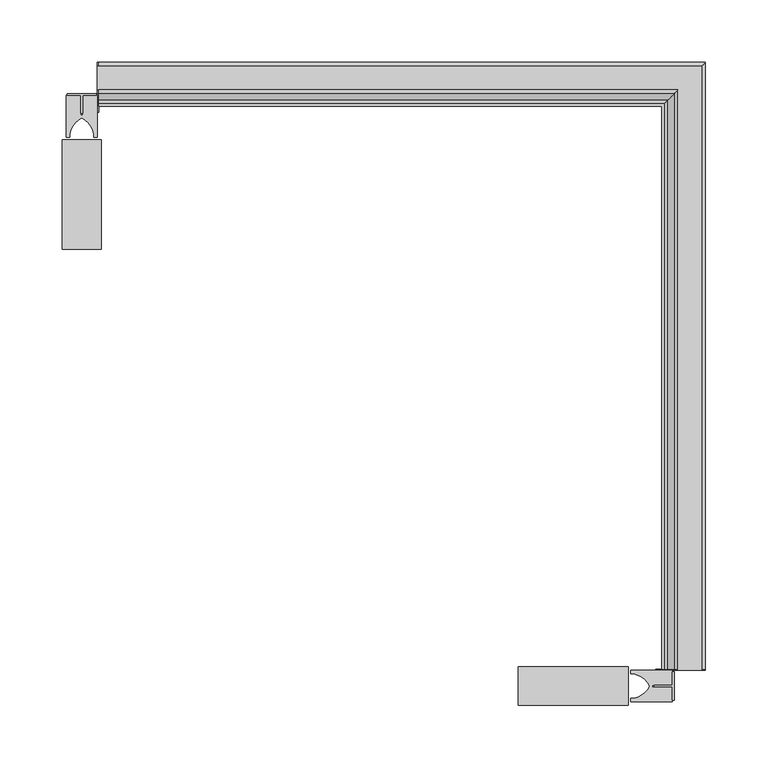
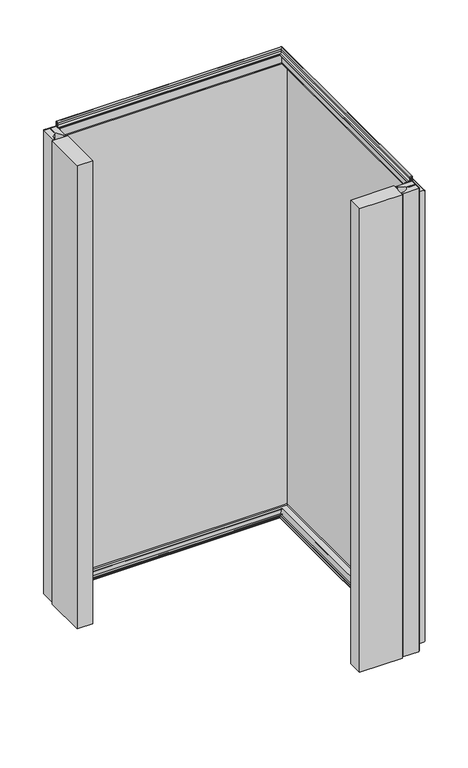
"""IFC4 building model written with IfcOpenShell, lengths in millimetres: plate geometry, Угловой модуль Fronttop : Угловой модуль Fronttop 150/1000."""

from ifc_helpers import new_model, si_unit, point, frame, frame_2d, origin, origin_with_axes, place, context, project, spatial, polyline, circle_curve, ellipse_curve, trimmed, segment, composite_curve, outline, extrude, source, transform, mapped, element, save
from ifc_brep_helpers import plane_surface, cylinder_surface, revolved_surface, advanced_brep


def plate_88117748(model_context):
    return source(origin(), model_context, "Body", "SolidModel", [
        extrude(outline(polyline([(225.0, -338.4948846), (225.0, -361.5051154), (223.5, -361.5051154), (223.5, -350.6502496), (209.0759655, -350.6502496), (209.0759655, -349.35), (223.5, -349.35), (223.5, -338.4948846), (225.0, -338.4948846)])), origin_with_axes(), (0.0, 0.0, 1.0), 1000.0),
        extrude(outline(composite_curve([segment(polyline([(223.5, -337.4998455), (223.5, -349.25), (207.5, -349.25), (207.5, -350.75), (223.5, -350.75), (223.5, -362.5001545), (190.0, -362.5001545), (190.0, -359.75), (192.5, -359.75)]), True, "CONTINUOUS"), segment(trimmed(circle_curve(frame_2d((189.3183984, -341.9661979)), 18.0661619), [point((192.5, -359.75))], [point((205.5, -350.0))], True, "CARTESIAN"), True, "CONTINUOUS"), segment(trimmed(circle_curve(frame_2d((189.3183984, -358.0338021)), 18.0661619), [point((205.5, -350.0))], [point((192.5, -340.25))], True, "CARTESIAN"), True, "CONTINUOUS"), segment(polyline([(192.5, -340.25), (190.0, -340.25), (190.0, -337.4998455), (223.5, -337.4998455)]), True, "CONTINUOUS")], self_intersect=False)), origin_with_axes(), (0.0, 0.0, 1.0), 1000.0),
        extrude(outline(polyline([(100.0, -365.5), (100.0, -334.5), (188.0, -334.5), (188.0, -365.5), (100.0, -365.5)])), origin_with_axes(), (0.0, 0.0, 1.0), 1000.0),
        extrude(outline(polyline([(-261.5051154, 125.0), (-238.4948846, 125.0), (-238.4948846, 123.5), (-249.3497504, 123.5), (-249.3497504, 109.0759655), (-250.65, 109.0759655), (-250.65, 123.5), (-261.5051154, 123.5), (-261.5051154, 125.0)])), origin_with_axes(), (0.0, 0.0, 1.0), 1000.0),
        extrude(outline(composite_curve([segment(polyline([(-262.5001545, 123.5), (-250.75, 123.5), (-250.75, 107.5), (-249.25, 107.5), (-249.25, 123.5), (-237.4998455, 123.5), (-237.4998455, 90.0), (-240.25, 90.0), (-240.25, 92.5)]), True, "CONTINUOUS"), segment(trimmed(circle_curve(frame_2d((-258.0338021, 89.3183984)), 18.0661619), [point((-240.25, 92.5))], [point((-250.0, 105.5))], True, "CARTESIAN"), True, "CONTINUOUS"), segment(trimmed(circle_curve(frame_2d((-241.9661979, 89.3183984)), 18.0661619), [point((-250.0, 105.5))], [point((-259.75, 92.5))], True, "CARTESIAN"), True, "CONTINUOUS"), segment(polyline([(-259.75, 92.5), (-259.75, 90.0), (-262.5001545, 90.0), (-262.5001545, 123.5)]), True, "CONTINUOUS")], self_intersect=False)), origin_with_axes(), (0.0, 0.0, 1.0), 1000.0),
        extrude(outline(polyline([(-234.5, 0.0), (-265.5, 0.0), (-265.5, 88.0), (-234.5, 88.0), (-234.5, 0.0)])), origin_with_axes(), (0.0, 0.0, 1.0), 1000.0),
        advanced_brep(
        [(-236.5, 124.0, 1008.0), (-236.5, 121.0, 1008.0), (-236.5, 121.0, 1004.0), (-236.5, 117.0, 1000.0), (-236.5, 115.0, 1000.0), (-236.5, 115.0, 1001.0), (-236.5, 117.0, 1001.0), (-236.5, 120.0, 1004.0), (-236.5, 120.0, 1008.0), (-236.5, 125.0, 1008.0), (-236.5, 125.0, 1000.0), (-236.5, 124.0, 1000.0), (-236.5, 115.0, 2.0), (215.0, 115.0, 2.0), (215.0, 115.0, 3.0), (-236.5, 115.0, 3.0), (215.0, -336.5, 3.0), (217.0, -336.5, 3.0), (217.0, 117.0, 3.0), (-236.5, 117.0, 3.0), (218.0, 118.0, 4.0), (-236.5, 118.0, 4.0), (218.0, 118.0, 8.0), (-236.5, 118.0, 8.0), (227.0, 127.0, 8.0), (-236.5, 127.0, 8.0), (227.0, 127.0, 0.0), (-236.5, 127.0, 0.0), (229.0, 129.0, -2.0), (-236.5, 129.0, -2.0), (229.0, -336.5, -2.0), (247.0, -336.5, -2.0), (247.0, 147.0, -2.0), (-236.5, 147.0, -2.0), (249.0, 149.0, 0.0), (-236.5, 149.0, 0.0), (249.0, 149.0, 969.0), (-236.5, 149.0, 969.0), (247.0, 147.0, 971.0), (-236.5, 147.0, 971.0), (247.0, -336.5, 971.0), (228.0, -336.5, 971.0), (228.0, 128.0, 971.0), (-236.5, 128.0, 971.0), (224.0, 124.0, 975.0), (-236.5, 124.0, 975.0), (224.0, 124.0, 1008.0), (221.0, 121.0, 1008.0), (221.0, 121.0, 1004.0), (217.0, 117.0, 1000.0), (217.0, -336.5, 1000.0), (215.0, -336.5, 1000.0), (215.0, 115.0, 1000.0), (215.0, 115.0, 1001.0), (215.0, -336.5, 1001.0), (217.0, -336.5, 1001.0), (217.0, 117.0, 1001.0), (220.0, 120.0, 1004.0), (220.0, 120.0, 1008.0), (225.0, 125.0, 1008.0), (225.0, 125.0, 975.0), (-236.5, 125.0, 975.0), (-237.5, 125.0, 975.0), (-237.5, 125.0, 1000.0), (228.0, 128.0, 972.0), (-236.5, 128.0, 972.0), (228.0, -336.5, 972.0), (228.0, -337.5, 972.0), (247.0, -337.5, 972.0), (247.0, -336.5, 972.0), (247.0, 147.0, 972.0), (-236.5, 147.0, 972.0), (-237.5, 147.0, 972.0), (-237.5, 128.0, 972.0), (250.0, 150.0, 969.0), (-236.5, 150.0, 969.0), (250.0, 150.0, 0.0), (-236.5, 150.0, 0.0), (-237.5, 150.0, 0.0), (-237.5, 150.0, 969.0), (247.0, 147.0, -3.0), (-236.5, 147.0, -3.0), (247.0, -336.5, -3.0), (247.0, -337.5, -3.0), (225.0, -337.5, -3.0), (225.0, -336.5, -3.0), (229.0, -336.5, -3.0), (229.0, 129.0, -3.0), (-236.5, 129.0, -3.0), (-236.5, 125.0, -3.0), (-237.5, 125.0, -3.0), (-237.5, 147.0, -3.0), (226.0, 126.0, 0.0), (-236.5, 126.0, 0.0), (226.0, 126.0, 8.0), (-236.5, 126.0, 8.0), (219.0, 119.0, 8.0), (-236.5, 119.0, 8.0), (219.0, 119.0, 4.0), (-236.5, 119.0, 4.0), (217.0, 117.0, 2.0), (-236.5, 117.0, 2.0), (217.0, -336.5, 2.0), (215.0, -336.5, 2.0), (221.0, -336.5, 1004.0), (221.0, -336.5, 1008.0), (224.0, -336.5, 1008.0), (224.0, -336.5, 1000.0), (225.0, -336.5, 1000.0), (225.0, -336.5, 1008.0), (220.0, -336.5, 1008.0), (220.0, -336.5, 1004.0), (218.0, -336.5, 4.0), (218.0, -336.5, 8.0), (227.0, -336.5, 8.0), (227.0, -336.5, 0.0), (249.0, -336.5, 0.0), (249.0, -336.5, 969.0), (224.0, -336.5, 975.0), (225.0, -337.5, 1000.0), (225.0, -337.5, 975.0), (225.0, -336.5, 975.0), (250.0, -336.5, 969.0), (250.0, -337.5, 969.0), (250.0, -337.5, 0.0), (250.0, -336.5, 0.0), (226.0, -336.5, 0.0), (226.0, -336.5, 8.0), (219.0, -336.5, 8.0), (219.0, -336.5, 4.0), (-236.5, 110.0, 1000.0), (-236.5, 110.0, 0.0), (-236.5, 125.0, 0.0), (-237.5, 125.0, 0.0), (-237.5, 110.0, 0.0), (-237.5, 110.0, 1000.0), (210.0, -336.5, 0.0), (210.0, -336.5, 1000.0), (225.0, -336.5, 0.0), (210.0, -337.5, 0.0), (225.0, -337.5, 0.0), (210.0, -337.5, 1000.0)],
        [
            (0, 1, circle_curve(frame((-236.5, 122.5, 1008.0), z_axis=(1.0, 0.0, 0.0), x_axis=(0.0, -1.0, 0.0)), 1.5)),
            (1, 2),
            (2, 3, circle_curve(frame((-236.5, 117.0, 1004.0), z_axis=(-1.0, 0.0, 0.0), x_axis=(0.0, -1.0, 0.0)), 4.0)),
            (3, 4),
            (4, 5),
            (5, 6),
            (6, 7, circle_curve(frame((-236.5, 117.0, 1004.0), z_axis=(1.0, 0.0, 0.0), x_axis=(0.0, -1.0, 0.0)), 3.0)),
            (7, 8),
            (8, 9, circle_curve(frame((-236.5, 122.5, 1008.0), z_axis=(-1.0, 0.0, 0.0), x_axis=(0.0, -1.0, 0.0)), 2.5)),
            (9, 10),
            (10, 11),
            (11, 0),
            (12, 13),
            (13, 14),
            (14, 15),
            (15, 12),
            (14, 16),
            (16, 17),
            (17, 18),
            (18, 19),
            (19, 15),
            (18, 20, ellipse_curve(frame((217.0, 117.0, 4.0), z_axis=(0.7071067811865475, -0.7071067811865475, 0.0), x_axis=(0.7071067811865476, 0.7071067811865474, 0.0)), 1.4142136, 1.0)),
            (20, 21),
            (21, 19, circle_curve(frame((-236.5, 117.0, 4.0), z_axis=(-1.0, 0.0, 0.0), x_axis=(0.0, -1.0, 0.0)), 1.0)),
            (20, 22),
            (22, 23),
            (23, 21),
            (22, 24, ellipse_curve(frame((222.5, 122.5, 8.0), z_axis=(-0.7071067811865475, 0.7071067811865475, 0.0), x_axis=(-0.7071067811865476, -0.7071067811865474, 0.0)), 6.363961, 4.5)),
            (24, 25),
            (25, 23, circle_curve(frame((-236.5, 122.5, 8.0), z_axis=(1.0, 0.0, 0.0), x_axis=(0.0, -1.0, 0.0)), 4.5)),
            (24, 26),
            (26, 27),
            (27, 25),
            (26, 28, ellipse_curve(frame((229.0, 129.0, 0.0), z_axis=(0.7071067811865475, -0.7071067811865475, 0.0), x_axis=(0.7071067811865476, 0.7071067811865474, 0.0)), 2.8284271, 2.0)),
            (28, 29),
            (29, 27, circle_curve(frame((-236.5, 129.0, 0.0), z_axis=(-1.0, 0.0, 0.0), x_axis=(0.0, -1.0, 0.0)), 2.0)),
            (28, 30),
            (30, 31),
            (31, 32),
            (32, 33),
            (33, 29),
            (32, 34, ellipse_curve(frame((247.0, 147.0, 0.0), z_axis=(0.7071067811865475, -0.7071067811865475, 0.0), x_axis=(0.7071067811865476, 0.7071067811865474, 0.0)), 2.8284271, 2.0)),
            (34, 35),
            (35, 33, circle_curve(frame((-236.5, 147.0, 0.0), z_axis=(-1.0, 0.0, 0.0), x_axis=(0.0, -1.0, 0.0)), 2.0)),
            (34, 36),
            (36, 37),
            (37, 35),
            (36, 38, ellipse_curve(frame((247.0, 147.0, 969.0), z_axis=(0.7071067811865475, -0.7071067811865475, 0.0), x_axis=(0.7071067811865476, 0.7071067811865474, 0.0)), 2.8284271, 2.0)),
            (38, 39),
            (39, 37, circle_curve(frame((-236.5, 147.0, 969.0), z_axis=(-1.0, 0.0, 0.0), x_axis=(0.0, -1.0, 0.0)), 2.0)),
            (38, 40),
            (40, 41),
            (41, 42),
            (42, 43),
            (43, 39),
            (42, 44, ellipse_curve(frame((228.0, 128.0, 975.0), z_axis=(-0.7071067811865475, 0.7071067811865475, 0.0), x_axis=(-0.7071067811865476, -0.7071067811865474, 0.0)), 5.6568542, 4.0)),
            (44, 45),
            (45, 43, circle_curve(frame((-236.5, 128.0, 975.0), z_axis=(1.0, 0.0, 0.0), x_axis=(0.0, -1.0, 0.0)), 4.0)),
            (44, 46),
            (46, 0),
            (11, 45),
            (46, 47, ellipse_curve(frame((222.5, 122.5, 1008.0), z_axis=(0.7071067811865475, -0.7071067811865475, 0.0), x_axis=(0.7071067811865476, 0.7071067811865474, 0.0)), 2.1213203, 1.5)),
            (47, 1),
            (47, 48),
            (48, 2),
            (48, 49, ellipse_curve(frame((217.0, 117.0, 1004.0), z_axis=(-0.7071067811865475, 0.7071067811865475, 0.0), x_axis=(-0.7071067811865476, -0.7071067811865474, 0.0)), 5.6568542, 4.0)),
            (49, 3),
            (49, 50),
            (50, 51),
            (51, 52),
            (52, 4),
            (4, 3),
            (52, 53),
            (53, 5),
            (53, 54),
            (54, 55),
            (55, 56),
            (56, 6),
            (56, 57, ellipse_curve(frame((217.0, 117.0, 1004.0), z_axis=(0.7071067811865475, -0.7071067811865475, 0.0), x_axis=(0.7071067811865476, 0.7071067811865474, 0.0)), 4.2426407, 3.0)),
            (57, 7),
            (57, 58),
            (58, 8),
            (58, 59, ellipse_curve(frame((222.5, 122.5, 1008.0), z_axis=(-0.7071067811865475, 0.7071067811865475, 0.0), x_axis=(-0.7071067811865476, -0.7071067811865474, 0.0)), 3.5355339, 2.5)),
            (59, 9),
            (59, 60),
            (60, 61),
            (61, 62),
            (62, 63),
            (63, 10),
            (60, 64, ellipse_curve(frame((228.0, 128.0, 975.0), z_axis=(0.7071067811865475, -0.7071067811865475, 0.0), x_axis=(0.7071067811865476, 0.7071067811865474, 0.0)), 4.2426407, 3.0)),
            (64, 65),
            (65, 61, circle_curve(frame((-236.5, 128.0, 975.0), z_axis=(-1.0, 0.0, 0.0), x_axis=(0.0, -1.0, 0.0)), 3.0)),
            (64, 66),
            (66, 67),
            (67, 68),
            (68, 69),
            (69, 70),
            (70, 71),
            (71, 72),
            (72, 73),
            (73, 65),
            (70, 74, ellipse_curve(frame((247.0, 147.0, 969.0), z_axis=(-0.7071067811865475, 0.7071067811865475, 0.0), x_axis=(-0.7071067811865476, -0.7071067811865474, 0.0)), 4.2426407, 3.0)),
            (74, 75),
            (75, 71, circle_curve(frame((-236.5, 147.0, 969.0), z_axis=(1.0, 0.0, 0.0), x_axis=(0.0, -1.0, 0.0)), 3.0)),
            (74, 76),
            (76, 77),
            (77, 78),
            (78, 79),
            (79, 75),
            (76, 80, ellipse_curve(frame((247.0, 147.0, 0.0), z_axis=(-0.7071067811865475, 0.7071067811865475, 0.0), x_axis=(-0.7071067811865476, -0.7071067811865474, 0.0)), 4.2426407, 3.0)),
            (80, 81),
            (81, 77, circle_curve(frame((-236.5, 147.0, 0.0), z_axis=(1.0, 0.0, 0.0), x_axis=(0.0, -1.0, 0.0)), 3.0)),
            (80, 82),
            (82, 83),
            (83, 84),
            (84, 85),
            (85, 86),
            (86, 87),
            (87, 88),
            (88, 89),
            (89, 90),
            (90, 91),
            (91, 81),
            (87, 92, ellipse_curve(frame((229.0, 129.0, 0.0), z_axis=(-0.7071067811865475, 0.7071067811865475, 0.0), x_axis=(-0.7071067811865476, -0.7071067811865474, 0.0)), 4.2426407, 3.0)),
            (92, 93),
            (93, 88, circle_curve(frame((-236.5, 129.0, 0.0), z_axis=(1.0, 0.0, 0.0), x_axis=(0.0, -1.0, 0.0)), 3.0)),
            (92, 94),
            (94, 95),
            (95, 93),
            (94, 96, ellipse_curve(frame((222.5, 122.5, 8.0), z_axis=(0.7071067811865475, -0.7071067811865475, 0.0), x_axis=(0.7071067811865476, 0.7071067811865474, 0.0)), 4.9497475, 3.5)),
            (96, 97),
            (97, 95, circle_curve(frame((-236.5, 122.5, 8.0), z_axis=(-1.0, 0.0, 0.0), x_axis=(0.0, -1.0, 0.0)), 3.5)),
            (96, 98),
            (98, 99),
            (99, 97),
            (98, 100, ellipse_curve(frame((217.0, 117.0, 4.0), z_axis=(-0.7071067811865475, 0.7071067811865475, 0.0), x_axis=(-0.7071067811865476, -0.7071067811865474, 0.0)), 2.8284271, 2.0)),
            (100, 101),
            (101, 99, circle_curve(frame((-236.5, 117.0, 4.0), z_axis=(1.0, 0.0, 0.0), x_axis=(0.0, -1.0, 0.0)), 2.0)),
            (12, 101),
            (100, 102),
            (102, 103),
            (103, 13),
            (54, 51),
            (51, 50),
            (50, 104, circle_curve(frame((217.0, -336.5, 1004.0), z_axis=(0.0, -1.0, 0.0), x_axis=(-1.0, 0.0, 0.0)), 4.0)),
            (104, 105),
            (105, 106, circle_curve(frame((222.5, -336.5, 1008.0), z_axis=(0.0, 1.0, 0.0), x_axis=(-1.0, 0.0, 0.0)), 1.5)),
            (106, 107),
            (107, 108),
            (108, 109),
            (109, 110, circle_curve(frame((222.5, -336.5, 1008.0), z_axis=(0.0, -1.0, 0.0), x_axis=(-1.0, 0.0, 0.0)), 2.5)),
            (110, 111),
            (111, 55, circle_curve(frame((217.0, -336.5, 1004.0), z_axis=(0.0, 1.0, 0.0), x_axis=(-1.0, 0.0, 0.0)), 3.0)),
            (103, 16),
            (17, 112, circle_curve(frame((217.0, -336.5, 4.0), z_axis=(0.0, -1.0, 0.0), x_axis=(-1.0, 0.0, 0.0)), 1.0)),
            (112, 20),
            (112, 113),
            (113, 22),
            (113, 114, circle_curve(frame((222.5, -336.5, 8.0), z_axis=(0.0, 1.0, 0.0), x_axis=(-1.0, 0.0, 0.0)), 4.5)),
            (114, 24),
            (114, 115),
            (115, 26),
            (115, 30, circle_curve(frame((229.0, -336.5, 0.0), z_axis=(0.0, -1.0, 0.0), x_axis=(-1.0, 0.0, 0.0)), 2.0)),
            (31, 116, circle_curve(frame((247.0, -336.5, 0.0), z_axis=(0.0, -1.0, 0.0), x_axis=(-1.0, 0.0, 0.0)), 2.0)),
            (116, 34),
            (116, 117),
            (117, 36),
            (117, 40, circle_curve(frame((247.0, -336.5, 969.0), z_axis=(0.0, -1.0, 0.0), x_axis=(-1.0, 0.0, 0.0)), 2.0)),
            (41, 118, circle_curve(frame((228.0, -336.5, 975.0), z_axis=(0.0, 1.0, 0.0), x_axis=(-1.0, 0.0, 0.0)), 4.0)),
            (118, 44),
            (118, 107),
            (106, 46),
            (105, 47),
            (104, 48),
            (111, 57),
            (110, 58),
            (109, 59),
            (108, 119),
            (119, 120),
            (120, 121),
            (121, 60),
            (121, 66, circle_curve(frame((228.0, -336.5, 975.0), z_axis=(0.0, -1.0, 0.0), x_axis=(-1.0, 0.0, 0.0)), 3.0)),
            (69, 122, circle_curve(frame((247.0, -336.5, 969.0), z_axis=(0.0, 1.0, 0.0), x_axis=(-1.0, 0.0, 0.0)), 3.0)),
            (122, 74),
            (122, 123),
            (123, 124),
            (124, 125),
            (125, 76),
            (125, 82, circle_curve(frame((247.0, -336.5, 0.0), z_axis=(0.0, 1.0, 0.0), x_axis=(-1.0, 0.0, 0.0)), 3.0)),
            (86, 126, circle_curve(frame((229.0, -336.5, 0.0), z_axis=(0.0, 1.0, 0.0), x_axis=(-1.0, 0.0, 0.0)), 3.0)),
            (126, 92),
            (126, 127),
            (127, 94),
            (127, 128, circle_curve(frame((222.5, -336.5, 8.0), z_axis=(0.0, -1.0, 0.0), x_axis=(-1.0, 0.0, 0.0)), 3.5)),
            (128, 96),
            (128, 129),
            (129, 98),
            (129, 102, circle_curve(frame((217.0, -336.5, 4.0), z_axis=(0.0, 1.0, 0.0), x_axis=(-1.0, 0.0, 0.0)), 2.0)),
            (130, 131),
            (131, 132),
            (132, 89),
            (11, 3),
            (4, 130),
            (62, 73, circle_curve(frame((-237.5, 128.0, 975.0), z_axis=(1.0, 0.0, 0.0), x_axis=(0.0, 1.0, 0.0)), 3.0)),
            (72, 79, circle_curve(frame((-237.5, 147.0, 969.0), z_axis=(-1.0, 0.0, 0.0), x_axis=(0.0, 1.0, 0.0)), 3.0)),
            (78, 91, circle_curve(frame((-237.5, 147.0, 0.0), z_axis=(-1.0, 0.0, 0.0), x_axis=(0.0, 1.0, 0.0)), 3.0)),
            (90, 133),
            (133, 134),
            (134, 135),
            (135, 63),
            (135, 130),
            (134, 131),
            (133, 132),
            (136, 137),
            (137, 51),
            (50, 107),
            (85, 138),
            (138, 136),
            (139, 140),
            (140, 84),
            (83, 124, circle_curve(frame((247.0, -337.5, 0.0), z_axis=(0.0, -1.0, 0.0), x_axis=(-1.0, 0.0, 0.0)), 3.0)),
            (123, 68, circle_curve(frame((247.0, -337.5, 969.0), z_axis=(0.0, -1.0, 0.0), x_axis=(-1.0, 0.0, 0.0)), 3.0)),
            (67, 120, circle_curve(frame((228.0, -337.5, 975.0), z_axis=(0.0, 1.0, 0.0), x_axis=(-1.0, 0.0, 0.0)), 3.0)),
            (119, 141),
            (141, 139),
            (138, 140),
            (139, 136),
            (137, 141),
        ],
        [
            plane_surface(frame((-236.5, 0.0, 0.0), z_axis=(-1.0, 0.0, 0.0), x_axis=(0.0, 0.0, 1.0))),
            plane_surface(frame((-236.5, 115.0, 2.0), z_axis=(0.0, -1.0, 0.0), x_axis=(1.0, 0.0, 0.0))),
            plane_surface(frame((-236.5, 115.0, 3.0), z_axis=(0.0, 0.0, 1.0), x_axis=(1.0, 0.0, 0.0))),
            revolved_surface(polyline([(218.00000002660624, 116.0, 4.0), (-236.5, 116.0, 4.0)]), (-236.5, 117.0, 4.0), (1.0, 0.0, 0.0)),
            plane_surface(frame((-236.5, 118.0, 4.0), z_axis=(0.0, -1.0, 0.0), x_axis=(1.0, 0.0, 0.0))),
            cylinder_surface(frame((-236.5, 122.5, 8.0), z_axis=(-1.0, 0.0, 0.0), x_axis=(0.0, -1.0, 0.0)), 4.5),
            plane_surface(frame((-236.5, 127.0, 8.0), z_axis=(0.0, 1.0, 0.0), x_axis=(1.0, 0.0, 0.0))),
            revolved_surface(polyline([(230.99999998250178, 127.0, 0.0), (-236.5, 127.0, 0.0)]), (-236.5, 129.0, 0.0), (1.0, 0.0, 0.0)),
            plane_surface(frame((-236.5, 129.0, -2.0), z_axis=(0.0, 0.0, 1.0), x_axis=(1.0, 0.0, 0.0))),
            revolved_surface(polyline([(249.0, 145.0, 0.0), (-236.5, 145.0, 0.0)]), (-236.5, 147.0, 0.0), (1.0, 0.0, 0.0)),
            plane_surface(frame((-236.5, 149.0, 0.0), z_axis=(0.0, -1.0, 0.0), x_axis=(1.0, 0.0, 0.0))),
            revolved_surface(polyline([(249.0, 145.0, 969.0), (-236.5, 145.0, 969.0)]), (-236.5, 147.0, 969.0), (1.0, 0.0, 0.0)),
            plane_surface(frame((-236.5, 147.0, 971.0), z_axis=(0.0, 0.0, -1.0), x_axis=(1.0, 0.0, 0.0))),
            cylinder_surface(frame((-236.5, 128.0, 975.0), z_axis=(-1.0, 0.0, 0.0), x_axis=(0.0, -1.0, 0.0)), 4.0),
            plane_surface(frame((-236.5, 124.0, 975.0), z_axis=(0.0, -1.0, 0.0), x_axis=(1.0, 0.0, 0.0))),
            revolved_surface(polyline([(224.0, 121.0, 1008.0), (-236.5, 121.0, 1008.0)]), (-236.5, 122.5, 1008.0), (1.0, 0.0, 0.0)),
            plane_surface(frame((-236.5, 121.0, 1008.0), z_axis=(0.0, 1.0, 0.0), x_axis=(1.0, 0.0, 0.0))),
            cylinder_surface(frame((-236.5, 117.0, 1004.0), z_axis=(-1.0, 0.0, 0.0), x_axis=(0.0, -1.0, 0.0)), 4.0),
            plane_surface(frame((-236.5, 117.0, 1000.0), z_axis=(0.0, 0.0, -1.0), x_axis=(1.0, 0.0, 0.0))),
            plane_surface(frame((-236.5, 115.0, 1000.0), z_axis=(0.0, -1.0, 0.0), x_axis=(1.0, 0.0, 0.0))),
            plane_surface(frame((-236.5, 115.0, 1001.0), z_axis=(0.0, 0.0, 1.0), x_axis=(1.0, 0.0, 0.0))),
            revolved_surface(polyline([(220.00000000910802, 114.0, 1004.0), (-236.5, 114.0, 1004.0)]), (-236.5, 117.0, 1004.0), (1.0, 0.0, 0.0)),
            plane_surface(frame((-236.5, 120.0, 1004.0), z_axis=(0.0, -1.0, 0.0), x_axis=(1.0, 0.0, 0.0))),
            cylinder_surface(frame((-236.5, 122.5, 1008.0), z_axis=(-1.0, 0.0, 0.0), x_axis=(0.0, -1.0, 0.0)), 2.5),
            plane_surface(frame((-236.5, 125.0, 1008.0), z_axis=(0.0, 1.0, 0.0), x_axis=(1.0, 0.0, 0.0))),
            revolved_surface(polyline([(231.00000000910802, 125.0, 975.0), (-236.5, 125.0, 975.0)]), (-236.5, 128.0, 975.0), (1.0, 0.0, 0.0)),
            plane_surface(frame((-236.5, 128.0, 972.0), z_axis=(0.0, 0.0, 1.0), x_axis=(1.0, 0.0, 0.0))),
            cylinder_surface(frame((-236.5, 147.0, 969.0), z_axis=(-1.0, 0.0, 0.0), x_axis=(0.0, -1.0, 0.0)), 3.0),
            plane_surface(frame((-236.5, 150.0, 969.0), z_axis=(0.0, 1.0, 0.0), x_axis=(1.0, 0.0, 0.0))),
            cylinder_surface(frame((-236.5, 147.0, 0.0), z_axis=(-1.0, 0.0, 0.0), x_axis=(0.0, -1.0, 0.0)), 3.0),
            plane_surface(frame((-236.5, 147.0, -3.0), z_axis=(0.0, 0.0, -1.0), x_axis=(1.0, 0.0, 0.0))),
            cylinder_surface(frame((-236.5, 129.0, 0.0), z_axis=(-1.0, 0.0, 0.0), x_axis=(0.0, -1.0, 0.0)), 3.0),
            plane_surface(frame((-236.5, 126.0, 0.0), z_axis=(0.0, -1.0, 0.0), x_axis=(1.0, 0.0, 0.0))),
            revolved_surface(polyline([(226.00000002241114, 119.0, 8.0), (-236.5, 119.0, 8.0)]), (-236.5, 122.5, 8.0), (1.0, 0.0, 0.0)),
            plane_surface(frame((-236.5, 119.0, 8.0), z_axis=(0.0, 1.0, 0.0), x_axis=(1.0, 0.0, 0.0))),
            cylinder_surface(frame((-236.5, 117.0, 4.0), z_axis=(-1.0, 0.0, 0.0), x_axis=(0.0, -1.0, 0.0)), 2.0),
            plane_surface(frame((-236.5, 117.0, 2.0), z_axis=(0.0, 0.0, -1.0), x_axis=(1.0, 0.0, 0.0))),
            plane_surface(frame((100.0, -336.5, 0.0), z_axis=(0.0, -1.0, 0.0), x_axis=(0.0, 0.0, 1.0))),
            plane_surface(frame((215.0, 115.0, 2.0), z_axis=(-1.0, 0.0, 0.0), x_axis=(0.0, -1.0, 0.0))),
            revolved_surface(polyline([(216.0, -336.5, 4.0), (216.0, 118.00000002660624, 4.0)]), (217.0, 0.0, 4.0), (0.0, -1.0, 0.0)),
            plane_surface(frame((218.0, 118.0, 4.0), z_axis=(-1.0, 0.0, 0.0), x_axis=(0.0, -1.0, 0.0))),
            cylinder_surface(frame((222.5, 0.0, 8.0), z_axis=(0.0, 1.0, 0.0), x_axis=(-1.0, 0.0, 0.0)), 4.5),
            plane_surface(frame((227.0, 127.0, 8.0), z_axis=(1.0, 0.0, 0.0), x_axis=(0.0, -1.0, 0.0))),
            revolved_surface(polyline([(227.0, -336.5, 0.0), (227.0, 130.9999999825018, 0.0)]), (229.0, 0.0, 0.0), (0.0, -1.0, 0.0)),
            revolved_surface(polyline([(245.0, -336.5, 0.0), (245.0, 149.0, 0.0)]), (247.0, 0.0, 0.0), (0.0, -1.0, 0.0)),
            plane_surface(frame((249.0, 149.0, 0.0), z_axis=(-1.0, 0.0, 0.0), x_axis=(0.0, -1.0, 0.0))),
            revolved_surface(polyline([(245.0, -336.5, 969.0), (245.0, 149.0, 969.0)]), (247.0, 0.0, 969.0), (0.0, -1.0, 0.0)),
            cylinder_surface(frame((228.0, 0.0, 975.0), z_axis=(0.0, 1.0, 0.0), x_axis=(-1.0, 0.0, 0.0)), 4.0),
            plane_surface(frame((224.0, 124.0, 975.0), z_axis=(-1.0, 0.0, 0.0), x_axis=(0.0, -1.0, 0.0))),
            revolved_surface(polyline([(221.0, -336.5, 1008.0), (221.0, 124.0, 1008.0)]), (222.5, 0.0, 1008.0), (0.0, -1.0, 0.0)),
            plane_surface(frame((221.0, 121.0, 1008.0), z_axis=(1.0, 0.0, 0.0), x_axis=(0.0, -1.0, 0.0))),
            cylinder_surface(frame((217.0, 0.0, 1004.0), z_axis=(0.0, 1.0, 0.0), x_axis=(-1.0, 0.0, 0.0)), 4.0),
            plane_surface(frame((215.0, 115.0, 1000.0), z_axis=(-1.0, 0.0, 0.0), x_axis=(0.0, -1.0, 0.0))),
            revolved_surface(polyline([(214.0, -336.5, 1004.0), (214.0, 120.00000000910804, 1004.0)]), (217.0, 0.0, 1004.0), (0.0, -1.0, 0.0)),
            plane_surface(frame((220.0, 120.0, 1004.0), z_axis=(-1.0, 0.0, 0.0), x_axis=(0.0, -1.0, 0.0))),
            cylinder_surface(frame((222.5, 0.0, 1008.0), z_axis=(0.0, 1.0, 0.0), x_axis=(-1.0, 0.0, 0.0)), 2.5),
            plane_surface(frame((225.0, 125.0, 1008.0), z_axis=(1.0, 0.0, 0.0), x_axis=(0.0, -1.0, 0.0))),
            revolved_surface(polyline([(225.0, -336.5, 975.0), (225.0, 131.00000000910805, 975.0)]), (228.0, 0.0, 975.0), (0.0, -1.0, 0.0)),
            cylinder_surface(frame((247.0, 0.0, 969.0), z_axis=(0.0, 1.0, 0.0), x_axis=(-1.0, 0.0, 0.0)), 3.0),
            plane_surface(frame((250.0, 150.0, 969.0), z_axis=(1.0, 0.0, 0.0), x_axis=(0.0, -1.0, 0.0))),
            cylinder_surface(frame((247.0, 0.0, 0.0), z_axis=(0.0, 1.0, 0.0), x_axis=(-1.0, 0.0, 0.0)), 3.0),
            cylinder_surface(frame((229.0, 0.0, 0.0), z_axis=(0.0, 1.0, 0.0), x_axis=(-1.0, 0.0, 0.0)), 3.0),
            plane_surface(frame((226.0, 126.0, 0.0), z_axis=(-1.0, 0.0, 0.0), x_axis=(0.0, -1.0, 0.0))),
            revolved_surface(polyline([(219.0, -336.5, 8.0), (219.0, 126.00000002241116, 8.0)]), (222.5, 0.0, 8.0), (0.0, -1.0, 0.0)),
            plane_surface(frame((219.0, 119.0, 8.0), z_axis=(1.0, 0.0, 0.0), x_axis=(0.0, -1.0, 0.0))),
            cylinder_surface(frame((217.0, 0.0, 4.0), z_axis=(0.0, 1.0, 0.0), x_axis=(-1.0, 0.0, 0.0)), 2.0),
            plane_surface(frame((-236.5, 125.0, 1000.0), z_axis=(1.0, 0.0, 0.0), x_axis=(0.0, -1.0, 0.0))),
            plane_surface(frame((-237.5, 125.0, 1000.0), z_axis=(-1.0, 0.0, 0.0), x_axis=(0.0, 1.0, 0.0))),
            plane_surface(frame((-236.5, 125.0, 1000.0), z_axis=(0.0, 0.0, 1.0), x_axis=(-1.0, 0.0, 0.0))),
            plane_surface(frame((-236.5, 110.0, 1000.0), z_axis=(0.0, -1.0, 0.0), x_axis=(-1.0, 0.0, 0.0))),
            plane_surface(frame((-236.5, 110.0, 0.0), z_axis=(0.0, 0.0, -1.0), x_axis=(-1.0, 0.0, 0.0))),
            plane_surface(frame((-236.5, 125.0, 0.0), z_axis=(0.0, -1.0, 0.0), x_axis=(-1.0, 0.0, 0.0))),
            cylinder_surface(frame((-237.5, 147.0, 0.0), z_axis=(1.0, 0.0, 0.0), x_axis=(0.0, 1.0, 0.0)), 3.0),
            cylinder_surface(frame((-237.5, 147.0, 969.0), z_axis=(1.0, 0.0, 0.0), x_axis=(0.0, 1.0, 0.0)), 3.0),
            revolved_surface(polyline([(-237.5, 131.0, 975.0), (-236.5, 131.0, 975.0)]), (-237.5, 128.0, 975.0), (-1.0, 0.0, 0.0)),
            plane_surface(frame((210.0, -336.5, 1000.0), z_axis=(0.0, 1.0, 0.0), x_axis=(0.0, 0.0, 1.0))),
            plane_surface(frame((210.0, -337.5, 1000.0), z_axis=(0.0, -1.0, 0.0), x_axis=(0.0, 0.0, -1.0))),
            plane_surface(frame((225.0, -336.5, 0.0), z_axis=(0.0, 0.0, -1.0), x_axis=(0.0, -1.0, 0.0))),
            plane_surface(frame((225.0, -336.5, -3.0), z_axis=(-1.0, 0.0, 0.0), x_axis=(0.0, -1.0, 0.0))),
            cylinder_surface(frame((247.0, -337.5, 0.0), z_axis=(0.0, 1.0, 0.0), x_axis=(-1.0, 0.0, 0.0)), 3.0),
            cylinder_surface(frame((247.0, -337.5, 969.0), z_axis=(0.0, 1.0, 0.0), x_axis=(-1.0, 0.0, 0.0)), 3.0),
            revolved_surface(polyline([(225.0, -337.5, 975.0), (225.0, -336.5, 975.0)]), (228.0, -337.5, 975.0), (0.0, -1.0, 0.0)),
            plane_surface(frame((210.0, -336.5, 1000.0), z_axis=(0.0, 0.0, 1.0), x_axis=(0.0, -1.0, 0.0))),
            plane_surface(frame((210.0, -336.5, 0.0), z_axis=(-1.0, 0.0, 0.0), x_axis=(0.0, -1.0, 0.0))),
        ],
        [
            (0, [[1, 2, 3, 4, 5, 6, 7, 8, 9, 10, 11, 12]]),
            (1, [[13, 14, 15, 16]]),
            (2, [[-15, 17, 18, 19, 20, 21]]),
            (3, [[-20, 22, 23, 24]]),
            (4, [[-23, 25, 26, 27]]),
            (5, [[-26, 28, 29, 30]]),
            (6, [[-29, 31, 32, 33]]),
            (7, [[-32, 34, 35, 36]]),
            (8, [[-35, 37, 38, 39, 40, 41]]),
            (9, [[-40, 42, 43, 44]]),
            (10, [[-43, 45, 46, 47]]),
            (11, [[-46, 48, 49, 50]]),
            (12, [[-49, 51, 52, 53, 54, 55]]),
            (13, [[-54, 56, 57, 58]]),
            (14, [[-57, 59, 60, -12, 61]]),
            (15, [[-1, -60, 62, 63]]),
            (16, [[-2, -63, 64, 65]]),
            (17, [[-3, -65, 66, 67]]),
            (18, [[-67, 68, 69, 70, 71, 72]]),
            (19, [[-5, -71, 73, 74]]),
            (20, [[-6, -74, 75, 76, 77, 78]]),
            (21, [[-7, -78, 79, 80]]),
            (22, [[-8, -80, 81, 82]]),
            (23, [[-9, -82, 83, 84]]),
            (24, [[-84, 85, 86, 87, 88, 89, -10]]),
            (25, [[-86, 90, 91, 92]]),
            (26, [[-91, 93, 94, 95, 96, 97, 98, 99, 100, 101]]),
            (27, [[-98, 102, 103, 104]]),
            (28, [[-103, 105, 106, 107, 108, 109]]),
            (29, [[-106, 110, 111, 112]]),
            (30, [[-111, 113, 114, 115, 116, 117, 118, 119, 120, 121, 122, 123]]),
            (31, [[-119, 124, 125, 126]]),
            (32, [[-125, 127, 128, 129]]),
            (33, [[-128, 130, 131, 132]]),
            (34, [[-131, 133, 134, 135]]),
            (35, [[-134, 136, 137, 138]]),
            (36, [[-13, 139, -137, 140, 141, 142]]),
            (37, [[-76, 143, 144, 145, 146, 147, 148, 149, 150, 151, 152, 153]]),
            (38, [[-14, -142, 154, -17]]),
            (39, [[-19, 155, 156, -22]]),
            (40, [[-25, -156, 157, 158]]),
            (41, [[-28, -158, 159, 160]]),
            (42, [[-31, -160, 161, 162]]),
            (43, [[-34, -162, 163, -37]]),
            (44, [[-39, 164, 165, -42]]),
            (45, [[-45, -165, 166, 167]]),
            (46, [[-48, -167, 168, -51]]),
            (47, [[-53, 169, 170, -56]]),
            (48, [[-59, -170, 171, -148, 172]]),
            (49, [[-62, -172, -147, 173]]),
            (50, [[-64, -173, -146, 174]]),
            (51, [[-66, -174, -145, -68]]),
            (52, [[-70, -143, -75, -73]]),
            (53, [[-77, -153, 175, -79]]),
            (54, [[-81, -175, -152, 176]]),
            (55, [[-83, -176, -151, 177]]),
            (56, [[-85, -177, -150, 178, 179, 180, 181]]),
            (57, [[-90, -181, 182, -93]]),
            (58, [[-97, 183, 184, -102]]),
            (59, [[-105, -184, 185, 186, 187, 188]]),
            (60, [[-110, -188, 189, -113]]),
            (61, [[-118, 190, 191, -124]]),
            (62, [[-127, -191, 192, 193]]),
            (63, [[-130, -193, 194, 195]]),
            (64, [[-133, -195, 196, 197]]),
            (65, [[-136, -197, 198, -140]]),
            (66, [[199, 200, 201, -120, -126, -129, -132, -135, -138, -139, -16, -21, -24, -27, -30, -33, -36, -41, -44, -47, -50, -55, -58, -61, 202, -72, 203]]),
            (67, [[-88, 204, -100, 205, -108, 206, -122, 207, 208, 209, 210]]),
            (68, [[-210, 211, -203, -4, -202, -11, -89]]),
            (69, [[-199, -211, -209, 212]]),
            (70, [[-200, -212, -208, 213]]),
            (71, [[-201, -213, -207, -121]]),
            (72, [[-206, -107, -112, -123]]),
            (73, [[-205, -99, -104, -109]]),
            (74, [[-204, -87, -92, -101]]),
            (75, [[214, 215, -69, 216, -171, -169, -52, -168, -166, -164, -38, -163, -161, -159, -157, -155, -18, -154, -141, -198, -196, -194, -192, -190, -117, 217, 218]]),
            (76, [[219, 220, -115, 221, -186, 222, -95, 223, -179, 224, 225]]),
            (77, [[-218, 226, -219, 227]]),
            (78, [[-217, -116, -220, -226]]),
            (79, [[-221, -114, -189, -187]]),
            (80, [[-222, -185, -183, -96]]),
            (81, [[-223, -94, -182, -180]]),
            (82, [[-224, -178, -149, -216, -144, -215, 228]]),
            (83, [[-214, -227, -225, -228]]),
        ],
    ),
    ])


if __name__ == "__main__":
    model = new_model("IFC4")
    model_context = context("Model", 3, world=origin())
    ifc_project = project(units=[si_unit("LENGTHUNIT", "METRE", prefix="MILLI")], contexts=[model_context])
    site = spatial("IfcSite", under=ifc_project)
    building = spatial("IfcBuilding", under=site)
    placement = place(None, origin())
    plate_shape = plate_88117748(model_context)
    element("IfcPlate", 1, ObjectType="Угловой модуль Fronttop : Угловой модуль Fronttop 150/1000", at=placement, inside=building, context=model_context, shape_type="MappedRepresentation", body=[
        mapped(plate_shape, transform((0.0, 0.0, 0.0), x_axis=(1.0, 0.0, 0.0), y_axis=(0.0, 1.0, 0.0), z_axis=(0.0, 0.0, 1.0))),
    ])
    save(model, "model.ifc")
